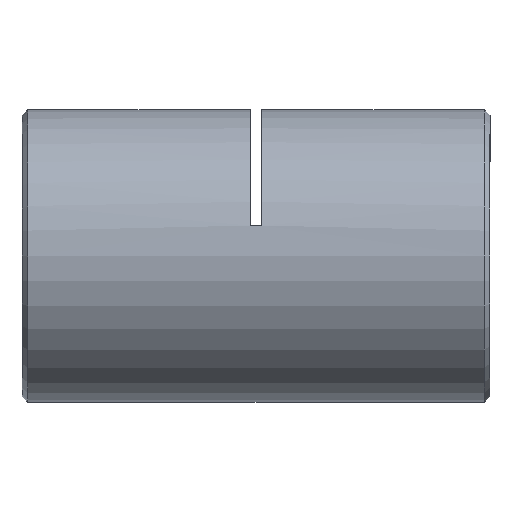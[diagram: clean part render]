
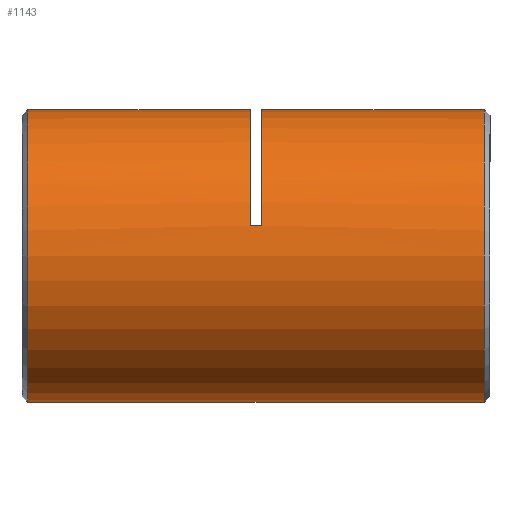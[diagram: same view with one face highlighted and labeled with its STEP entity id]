
A CAD part, left-side view. The second image highlights one B-rep face of the part: STEP entity #1143.
In plain terms, the highlighted cylindrical face has radius 12.5 mm (diameter 25 mm), a partial arc.
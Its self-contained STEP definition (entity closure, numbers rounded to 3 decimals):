
#47 = EDGE_CURVE ( 'NONE', #5811, #1410, #1227, .T. ) ;
#105 = EDGE_CURVE ( 'NONE', #5811, #1584, #4654, .T. ) ;
#178 = CARTESIAN_POINT ( 'NONE',  ( 0., 0.75, 12.5 ) ) ;
#353 = DIRECTION ( 'NONE',  ( 0., 1., 0. ) ) ;
#432 = LINE ( 'NONE', #1325, #4322 ) ;
#462 = DIRECTION ( 'NONE',  ( 0., -1., 0. ) ) ;
#632 = ORIENTED_EDGE ( 'NONE', *, *, #47, .F. ) ;
#659 = DIRECTION ( 'NONE',  ( 0., -1., 0. ) ) ;
#821 = VECTOR ( 'NONE', #659, 1000. ) ;
#890 = ORIENTED_EDGE ( 'NONE', *, *, #5106, .T. ) ;
#905 = DIRECTION ( 'NONE',  ( 0., 1., 0. ) ) ;
#1052 = CARTESIAN_POINT ( 'NONE',  ( 0., 19.75, 12.5 ) ) ;
#1117 = CARTESIAN_POINT ( 'NONE',  ( 0., 19.75, 0. ) ) ;
#1118 = CARTESIAN_POINT ( 'NONE',  ( 0., 20.75, 0. ) ) ;
#1143 = ADVANCED_FACE ( 'NONE', ( #4627 ), #2372, .T. ) ;
#1227 = LINE ( 'NONE', #3947, #2007 ) ;
#1283 = DIRECTION ( 'NONE',  ( 0., 0., -1. ) ) ;
#1325 = CARTESIAN_POINT ( 'NONE',  ( 0., 40.5, 12.5 ) ) ;
#1355 = DIRECTION ( 'NONE',  ( 0., 0., -1. ) ) ;
#1410 = VERTEX_POINT ( 'NONE', #2551 ) ;
#1413 = ORIENTED_EDGE ( 'NONE', *, *, #2236, .T. ) ;
#1472 = ORIENTED_EDGE ( 'NONE', *, *, #105, .T. ) ;
#1473 = EDGE_CURVE ( 'NONE', #2146, #2332, #4395, .T. ) ;
#1534 = DIRECTION ( 'NONE',  ( 0., 1., 0. ) ) ;
#1560 = EDGE_LOOP ( 'NONE', ( #632, #1472, #5698, #1413, #1631, #4861, #4609, #890 ) ) ;
#1584 = VERTEX_POINT ( 'NONE', #1808 ) ;
#1618 = LINE ( 'NONE', #4341, #821 ) ;
#1621 = DIRECTION ( 'NONE',  ( 0., 0., 1. ) ) ;
#1631 = ORIENTED_EDGE ( 'NONE', *, *, #1980, .F. ) ;
#1634 = AXIS2_PLACEMENT_3D ( 'NONE', #1117, #1534, #4704 ) ;
#1733 = CARTESIAN_POINT ( 'NONE',  ( 0., 39.75, 0. ) ) ;
#1808 = CARTESIAN_POINT ( 'NONE',  ( 0., 39.75, -12.5 ) ) ;
#1980 = EDGE_CURVE ( 'NONE', #2867, #1993, #432, .T. ) ;
#1993 = VERTEX_POINT ( 'NONE', #178 ) ;
#2007 = VECTOR ( 'NONE', #5325, 1000. ) ;
#2146 = VERTEX_POINT ( 'NONE', #3905 ) ;
#2236 = EDGE_CURVE ( 'NONE', #4017, #1993, #3762, .T. ) ;
#2332 = VERTEX_POINT ( 'NONE', #3954 ) ;
#2372 = CYLINDRICAL_SURFACE ( 'NONE', #3298, 12.5 ) ;
#2400 = CIRCLE ( 'NONE', #5711, 12.5 ) ;
#2551 = CARTESIAN_POINT ( 'NONE',  ( 0., 20.75, 12.5 ) ) ;
#2713 = VECTOR ( 'NONE', #353, 1000. ) ;
#2867 = VERTEX_POINT ( 'NONE', #1052 ) ;
#2868 = EDGE_CURVE ( 'NONE', #1584, #4017, #1618, .T. ) ;
#3186 = CARTESIAN_POINT ( 'NONE',  ( 0., 39.75, 12.5 ) ) ;
#3298 = AXIS2_PLACEMENT_3D ( 'NONE', #5542, #3306, #1355 ) ;
#3306 = DIRECTION ( 'NONE',  ( 0., -1., 0. ) ) ;
#3353 = CARTESIAN_POINT ( 'NONE',  ( 0., 0.75, -12.5 ) ) ;
#3440 = CIRCLE ( 'NONE', #1634, 12.5 ) ;
#3762 = CIRCLE ( 'NONE', #5827, 12.5 ) ;
#3905 = CARTESIAN_POINT ( 'NONE',  ( -12.226, 19.75, 2.604 ) ) ;
#3947 = CARTESIAN_POINT ( 'NONE',  ( 0., 40.5, 12.5 ) ) ;
#3954 = CARTESIAN_POINT ( 'NONE',  ( -12.226, 20.75, 2.604 ) ) ;
#4017 = VERTEX_POINT ( 'NONE', #3353 ) ;
#4042 = CARTESIAN_POINT ( 'NONE',  ( 0., 0.75, 0. ) ) ;
#4059 = EDGE_CURVE ( 'NONE', #2146, #2867, #3440, .T. ) ;
#4322 = VECTOR ( 'NONE', #462, 1000. ) ;
#4341 = CARTESIAN_POINT ( 'NONE',  ( 0., 40.5, -12.5 ) ) ;
#4395 = LINE ( 'NONE', #5370, #2713 ) ;
#4609 = ORIENTED_EDGE ( 'NONE', *, *, #1473, .T. ) ;
#4627 = FACE_OUTER_BOUND ( 'NONE', #1560, .T. ) ;
#4654 = CIRCLE ( 'NONE', #5402, 12.5 ) ;
#4704 = DIRECTION ( 'NONE',  ( 0., 0., 1. ) ) ;
#4861 = ORIENTED_EDGE ( 'NONE', *, *, #4059, .F. ) ;
#4905 = DIRECTION ( 'NONE',  ( 0., 0., 1. ) ) ;
#5106 = EDGE_CURVE ( 'NONE', #2332, #1410, #2400, .T. ) ;
#5325 = DIRECTION ( 'NONE',  ( 0., -1., 0. ) ) ;
#5351 = DIRECTION ( 'NONE',  ( 0., -1., 0. ) ) ;
#5370 = CARTESIAN_POINT ( 'NONE',  ( -12.226, 20.25, 2.604 ) ) ;
#5402 = AXIS2_PLACEMENT_3D ( 'NONE', #1733, #5351, #1283 ) ;
#5542 = CARTESIAN_POINT ( 'NONE',  ( 0., 40.5, 0. ) ) ;
#5645 = DIRECTION ( 'NONE',  ( 0., 1., 0. ) ) ;
#5698 = ORIENTED_EDGE ( 'NONE', *, *, #2868, .T. ) ;
#5711 = AXIS2_PLACEMENT_3D ( 'NONE', #1118, #5645, #1621 ) ;
#5811 = VERTEX_POINT ( 'NONE', #3186 ) ;
#5827 = AXIS2_PLACEMENT_3D ( 'NONE', #4042, #905, #4905 ) ;
